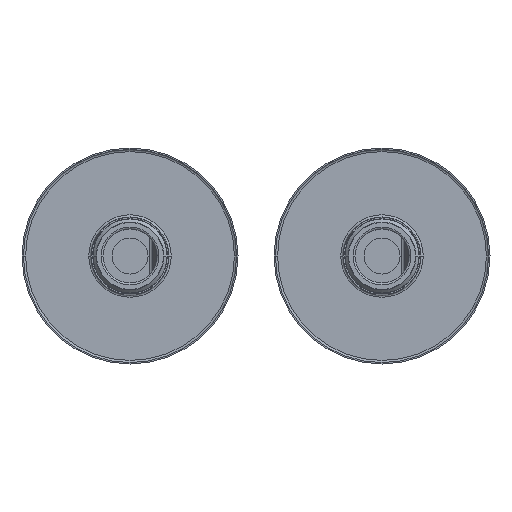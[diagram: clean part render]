
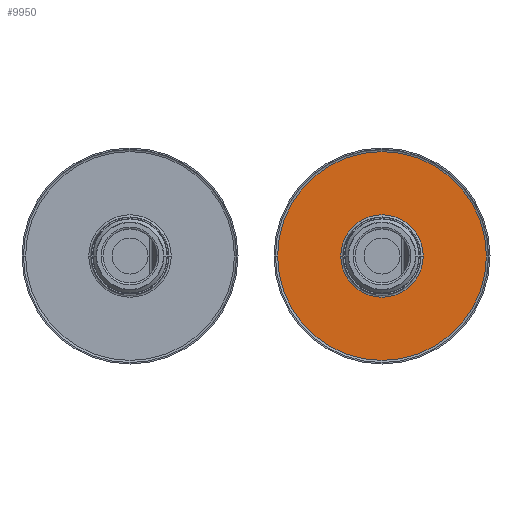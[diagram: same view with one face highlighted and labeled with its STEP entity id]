
A CAD part, front view. The second image highlights one B-rep face of the part: STEP entity #9950.
In plain terms, the highlighted planar face has unit normal (0, -1, 0).
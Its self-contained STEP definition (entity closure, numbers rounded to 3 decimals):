
#9436=CARTESIAN_POINT('',(0.,7.6,0.));
#9437=DIRECTION('',(0.,-1.,0.));
#9438=DIRECTION('',(1.,0.,0.));
#9439=AXIS2_PLACEMENT_3D('',#9436,#9437,#9438);
#9446=CARTESIAN_POINT('',(0.,7.6,0.));
#9447=DIRECTION('',(0.,1.,0.));
#9448=DIRECTION('',(1.,0.,0.));
#9449=AXIS2_PLACEMENT_3D('',#9446,#9447,#9448);
#9456=CARTESIAN_POINT('',(0.,7.6,0.));
#9457=DIRECTION('',(0.,1.,0.));
#9458=DIRECTION('',(-1.,0.,0.));
#9459=AXIS2_PLACEMENT_3D('',#9456,#9457,#9458);
#9461=CARTESIAN_POINT('',(0.,7.6,0.));
#9462=DIRECTION('',(0.,1.,0.));
#9463=DIRECTION('',(1.,0.,0.));
#9464=AXIS2_PLACEMENT_3D('',#9461,#9462,#9463);
#9555=CARTESIAN_POINT('',(11.449,7.6,0.));
#9557=VERTEX_POINT('',#9555);
#9559=CARTESIAN_POINT('',(-11.449,7.6,0.));
#9561=VERTEX_POINT('',#9559);
#9591=CARTESIAN_POINT('',(-29.,7.6,0.));
#9592=CARTESIAN_POINT('',(29.,7.6,0.));
#9593=VERTEX_POINT('',#9591);
#9594=VERTEX_POINT('',#9592);
#9935=CARTESIAN_POINT('',(0.,7.6,0.));
#9936=DIRECTION('',(0.,-1.,0.));
#9937=DIRECTION('',(-1.,0.,0.));
#9938=AXIS2_PLACEMENT_3D('',#9935,#9936,#9937);
#9939=PLANE('',#9938);
#9941=ORIENTED_EDGE('',*,*,#9940,.T.);
#9943=ORIENTED_EDGE('',*,*,#9942,.T.);
#9944=EDGE_LOOP('',(#9941,#9943));
#9945=FACE_OUTER_BOUND('',#9944,.F.);
#9946=ORIENTED_EDGE('',*,*,#9917,.T.);
#9947=ORIENTED_EDGE('',*,*,#9928,.F.);
#9948=EDGE_LOOP('',(#9946,#9947));
#9949=FACE_BOUND('',#9948,.F.);
#9950=ADVANCED_FACE('',(#9945,#9949),#9939,.T.);
#9440=CIRCLE('',#9439,11.449);
#9450=CIRCLE('',#9449,11.449);
#9460=CIRCLE('',#9459,29.);
#9465=CIRCLE('',#9464,29.);
#9917=EDGE_CURVE('',#9557,#9561,#9440,.T.);
#9928=EDGE_CURVE('',#9557,#9561,#9450,.T.);
#9940=EDGE_CURVE('',#9593,#9594,#9460,.T.);
#9942=EDGE_CURVE('',#9594,#9593,#9465,.T.);
